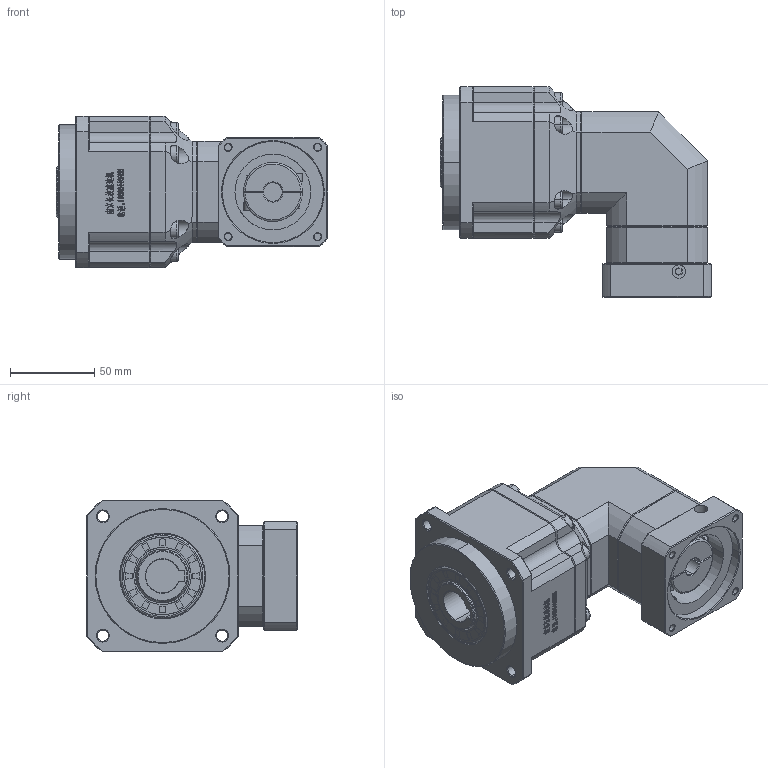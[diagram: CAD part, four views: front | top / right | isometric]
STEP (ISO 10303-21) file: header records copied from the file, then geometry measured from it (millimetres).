
FILE_DESCRIPTION (( 'STEP AP214' ), '1' );
FILE_NAME ('ZPBR090-K20-L2-P1-11-60-75-M5.step', '2024-06-07T18:40:12', ( 'Windows 蚚誧' ), ( 'Organization' ), 'SwSTEP 2.0', 'SolidWorks 2016', '' );
FILE_SCHEMA (( 'AUTOMOTIVE_DESIGN' ));
Length unit declared in the file: millimetre
Products named in the file (1): ZPBR090-K20-L2-P1-11-60-75-M5
Bounding box: 161 x 125 x 90 mm (x, y, z)
Surface area: 87582 mm2 (no closed solid volume)
Topology: 0 solids, 30 shells, 1972 faces, 5200 edges, 3313 vertices
Faces by surface type: plane 1076, bspline 366, cylinder 256, cone 249, torus 25
Entity records: 90408 total; most frequent: CARTESIAN_POINT 40840, ORIENTED_EDGE 10364, DIRECTION 7889, EDGE_CURVE 5200, LINE 3329, VECTOR 3329, VERTEX_POINT 3313, AXIS2_PLACEMENT_3D 2280
